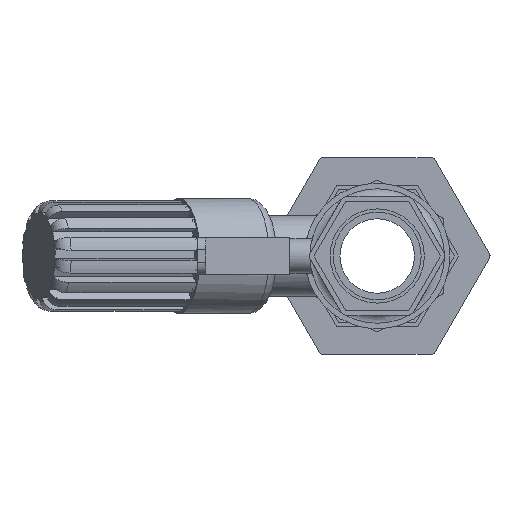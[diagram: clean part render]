
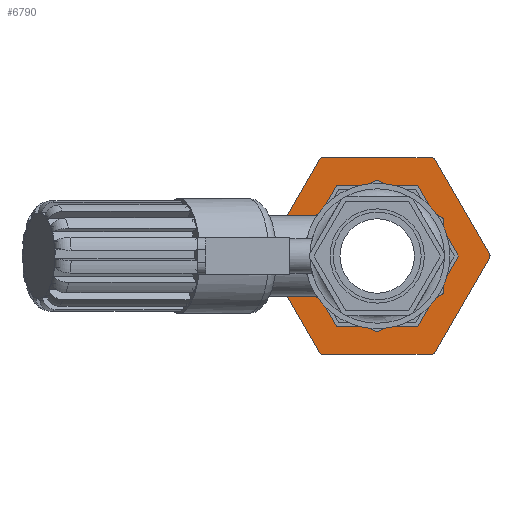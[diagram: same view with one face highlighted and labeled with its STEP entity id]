
A CAD part, left-side view. The second image highlights one B-rep face of the part: STEP entity #6790.
In plain terms, the highlighted planar face has unit normal (-1, 0, 0).
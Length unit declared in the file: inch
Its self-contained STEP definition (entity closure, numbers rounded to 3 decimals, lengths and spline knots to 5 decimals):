
#275=FACE_BOUND('',#1239,.T.);
#476=CIRCLE('',#7490,0.025);
#480=CIRCLE('',#7498,0.025);
#486=CIRCLE('',#7510,0.025);
#492=CIRCLE('',#7523,0.025);
#494=CIRCLE('',#7527,0.025);
#496=CIRCLE('',#7531,0.025);
#498=CIRCLE('',#7535,0.05);
#499=CIRCLE('',#7536,0.05);
#500=CIRCLE('',#7537,0.05);
#501=CIRCLE('',#7538,0.05);
#502=CIRCLE('',#7539,0.05);
#503=CIRCLE('',#7540,0.05);
#853=FACE_OUTER_BOUND('',#1238,.T.);
#1238=EDGE_LOOP('',(#5524,#5525,#5526,#5527,#5528,#5529,#5530,#5531,#5532,
#5533,#5534,#5535));
#1239=EDGE_LOOP('',(#5536,#5537,#5538,#5539,#5540,#5541,#5542,#5543,#5544,
#5545,#5546,#5547));
#1759=LINE('',#11549,#2344);
#1771=LINE('',#11585,#2356);
#1789=LINE('',#11636,#2374);
#1793=LINE('',#11648,#2378);
#1797=LINE('',#11660,#2382);
#1801=LINE('',#11671,#2386);
#1803=LINE('',#11676,#2388);
#1804=LINE('',#11680,#2389);
#1805=LINE('',#11684,#2390);
#1806=LINE('',#11688,#2391);
#1807=LINE('',#11692,#2392);
#1808=LINE('',#11696,#2393);
#2344=VECTOR('',#9047,0.3937);
#2356=VECTOR('',#9083,0.3937);
#2374=VECTOR('',#9135,0.3937);
#2378=VECTOR('',#9147,0.3937);
#2382=VECTOR('',#9159,0.3937);
#2386=VECTOR('',#9171,0.3937);
#2388=VECTOR('',#9175,0.3937);
#2389=VECTOR('',#9178,0.3937);
#2390=VECTOR('',#9181,0.3937);
#2391=VECTOR('',#9184,0.3937);
#2392=VECTOR('',#9187,0.3937);
#2393=VECTOR('',#9190,0.3937);
#2954=VERTEX_POINT('',#11539);
#2955=VERTEX_POINT('',#11540);
#2958=VERTEX_POINT('',#11548);
#2964=VERTEX_POINT('',#11566);
#2970=VERTEX_POINT('',#11584);
#2976=VERTEX_POINT('',#11602);
#2986=VERTEX_POINT('',#11635);
#2988=VERTEX_POINT('',#11641);
#2990=VERTEX_POINT('',#11647);
#2992=VERTEX_POINT('',#11653);
#2994=VERTEX_POINT('',#11659);
#2996=VERTEX_POINT('',#11665);
#2998=VERTEX_POINT('',#11674);
#2999=VERTEX_POINT('',#11675);
#3000=VERTEX_POINT('',#11677);
#3001=VERTEX_POINT('',#11679);
#3002=VERTEX_POINT('',#11681);
#3003=VERTEX_POINT('',#11683);
#3004=VERTEX_POINT('',#11685);
#3005=VERTEX_POINT('',#11687);
#3006=VERTEX_POINT('',#11689);
#3007=VERTEX_POINT('',#11691);
#3008=VERTEX_POINT('',#11693);
#3009=VERTEX_POINT('',#11695);
#3809=EDGE_CURVE('',#2954,#2955,#476,.T.);
#3813=EDGE_CURVE('',#2958,#2954,#1759,.T.);
#3822=EDGE_CURVE('',#2964,#2958,#480,.T.);
#3831=EDGE_CURVE('',#2970,#2964,#1771,.T.);
#3840=EDGE_CURVE('',#2976,#2970,#486,.T.);
#3857=EDGE_CURVE('',#2955,#2986,#1789,.T.);
#3860=EDGE_CURVE('',#2986,#2988,#492,.T.);
#3863=EDGE_CURVE('',#2988,#2990,#1793,.T.);
#3866=EDGE_CURVE('',#2990,#2992,#494,.T.);
#3869=EDGE_CURVE('',#2992,#2994,#1797,.T.);
#3872=EDGE_CURVE('',#2994,#2996,#496,.T.);
#3875=EDGE_CURVE('',#2996,#2976,#1801,.T.);
#3877=EDGE_CURVE('',#2998,#2999,#1803,.T.);
#3878=EDGE_CURVE('',#2999,#3000,#498,.T.);
#3879=EDGE_CURVE('',#3000,#3001,#1804,.T.);
#3880=EDGE_CURVE('',#3001,#3002,#499,.T.);
#3881=EDGE_CURVE('',#3002,#3003,#1805,.T.);
#3882=EDGE_CURVE('',#3003,#3004,#500,.T.);
#3883=EDGE_CURVE('',#3004,#3005,#1806,.T.);
#3884=EDGE_CURVE('',#3005,#3006,#501,.T.);
#3885=EDGE_CURVE('',#3006,#3007,#1807,.T.);
#3886=EDGE_CURVE('',#3007,#3008,#502,.T.);
#3887=EDGE_CURVE('',#3008,#3009,#1808,.T.);
#3888=EDGE_CURVE('',#3009,#2998,#503,.T.);
#5524=ORIENTED_EDGE('',*,*,#3877,.T.);
#5525=ORIENTED_EDGE('',*,*,#3878,.T.);
#5526=ORIENTED_EDGE('',*,*,#3879,.T.);
#5527=ORIENTED_EDGE('',*,*,#3880,.T.);
#5528=ORIENTED_EDGE('',*,*,#3881,.T.);
#5529=ORIENTED_EDGE('',*,*,#3882,.T.);
#5530=ORIENTED_EDGE('',*,*,#3883,.T.);
#5531=ORIENTED_EDGE('',*,*,#3884,.T.);
#5532=ORIENTED_EDGE('',*,*,#3885,.T.);
#5533=ORIENTED_EDGE('',*,*,#3886,.T.);
#5534=ORIENTED_EDGE('',*,*,#3887,.T.);
#5535=ORIENTED_EDGE('',*,*,#3888,.T.);
#5536=ORIENTED_EDGE('',*,*,#3875,.T.);
#5537=ORIENTED_EDGE('',*,*,#3840,.T.);
#5538=ORIENTED_EDGE('',*,*,#3831,.T.);
#5539=ORIENTED_EDGE('',*,*,#3822,.T.);
#5540=ORIENTED_EDGE('',*,*,#3813,.T.);
#5541=ORIENTED_EDGE('',*,*,#3809,.T.);
#5542=ORIENTED_EDGE('',*,*,#3857,.T.);
#5543=ORIENTED_EDGE('',*,*,#3860,.T.);
#5544=ORIENTED_EDGE('',*,*,#3863,.T.);
#5545=ORIENTED_EDGE('',*,*,#3866,.T.);
#5546=ORIENTED_EDGE('',*,*,#3869,.T.);
#5547=ORIENTED_EDGE('',*,*,#3872,.T.);
#6116=PLANE('',#7534);
#6790=ADVANCED_FACE('',(#853,#275),#6116,.F.);
#7490=AXIS2_PLACEMENT_3D('',#11541,#9039,#9040);
#7498=AXIS2_PLACEMENT_3D('',#11567,#9064,#9065);
#7510=AXIS2_PLACEMENT_3D('',#11603,#9100,#9101);
#7523=AXIS2_PLACEMENT_3D('',#11642,#9140,#9141);
#7527=AXIS2_PLACEMENT_3D('',#11654,#9152,#9153);
#7531=AXIS2_PLACEMENT_3D('',#11666,#9164,#9165);
#7534=AXIS2_PLACEMENT_3D('',#11673,#9173,#9174);
#7535=AXIS2_PLACEMENT_3D('',#11678,#9176,#9177);
#7536=AXIS2_PLACEMENT_3D('',#11682,#9179,#9180);
#7537=AXIS2_PLACEMENT_3D('',#11686,#9182,#9183);
#7538=AXIS2_PLACEMENT_3D('',#11690,#9185,#9186);
#7539=AXIS2_PLACEMENT_3D('',#11694,#9188,#9189);
#7540=AXIS2_PLACEMENT_3D('',#11697,#9191,#9192);
#9039=DIRECTION('center_axis',(1.,0.,0.));
#9040=DIRECTION('ref_axis',(0.,-0.5,0.866));
#9047=DIRECTION('',(0.,0.866,0.5));
#9064=DIRECTION('center_axis',(1.,0.,0.));
#9065=DIRECTION('ref_axis',(0.,0.5,0.866));
#9083=DIRECTION('',(0.,0.866,-0.5));
#9100=DIRECTION('center_axis',(1.,0.,0.));
#9101=DIRECTION('ref_axis',(0.,1.,0.));
#9135=DIRECTION('',(0.,0.,1.));
#9140=DIRECTION('center_axis',(1.,0.,0.));
#9141=DIRECTION('ref_axis',(0.,-1.,0.));
#9147=DIRECTION('',(0.,-0.866,0.5));
#9152=DIRECTION('center_axis',(1.,0.,0.));
#9153=DIRECTION('ref_axis',(0.,-0.5,-0.866));
#9159=DIRECTION('',(0.,-0.866,-0.5));
#9164=DIRECTION('center_axis',(1.,0.,0.));
#9165=DIRECTION('ref_axis',(0.,0.5,-0.866));
#9171=DIRECTION('',(0.,0.,-1.));
#9173=DIRECTION('center_axis',(1.,0.,0.));
#9174=DIRECTION('ref_axis',(0.,0.,-1.));
#9175=DIRECTION('',(0.,-0.5,-0.866));
#9176=DIRECTION('center_axis',(-1.,0.,0.));
#9177=DIRECTION('ref_axis',(0.,0.,1.));
#9178=DIRECTION('',(0.,-1.,0.));
#9179=DIRECTION('center_axis',(-1.,0.,0.));
#9180=DIRECTION('ref_axis',(0.,0.866,0.5));
#9181=DIRECTION('',(0.,-0.5,0.866));
#9182=DIRECTION('center_axis',(-1.,0.,0.));
#9183=DIRECTION('ref_axis',(0.,0.866,-0.5));
#9184=DIRECTION('',(0.,0.5,0.866));
#9185=DIRECTION('center_axis',(-1.,0.,0.));
#9186=DIRECTION('ref_axis',(0.,0.,-1.));
#9187=DIRECTION('',(0.,1.,0.));
#9188=DIRECTION('center_axis',(-1.,0.,0.));
#9189=DIRECTION('ref_axis',(0.,-0.866,-0.5));
#9190=DIRECTION('',(0.,0.5,-0.866));
#9191=DIRECTION('center_axis',(-1.,0.,0.));
#9192=DIRECTION('ref_axis',(0.,-0.866,0.5));
#11539=CARTESIAN_POINT('',(-0.315,0.645,-0.38682));
#11540=CARTESIAN_POINT('',(-0.315,0.6575,-0.36517));
#11541=CARTESIAN_POINT('Origin',(-0.315,0.6325,-0.36517));
#11548=CARTESIAN_POINT('',(-0.315,0.0125,-0.752));
#11549=CARTESIAN_POINT('',(-0.315,0.48688,-0.47812));
#11566=CARTESIAN_POINT('',(-0.315,-0.0125,-0.752));
#11567=CARTESIAN_POINT('Origin',(-0.315,0.,-0.73035));
#11584=CARTESIAN_POINT('',(-0.315,-0.645,-0.38682));
#11585=CARTESIAN_POINT('',(-0.315,-0.17063,-0.66071));
#11602=CARTESIAN_POINT('',(-0.315,-0.6575,-0.36517));
#11603=CARTESIAN_POINT('Origin',(-0.315,-0.6325,-0.36517));
#11635=CARTESIAN_POINT('',(-0.315,0.6575,0.36517));
#11636=CARTESIAN_POINT('',(-0.315,0.6575,0.18259));
#11641=CARTESIAN_POINT('',(-0.315,0.645,0.38682));
#11642=CARTESIAN_POINT('Origin',(-0.315,0.6325,0.36517));
#11647=CARTESIAN_POINT('',(-0.315,0.0125,0.752));
#11648=CARTESIAN_POINT('',(-0.315,0.17063,0.66071));
#11653=CARTESIAN_POINT('',(-0.315,-0.0125,0.752));
#11654=CARTESIAN_POINT('Origin',(-0.315,0.,0.73035));
#11659=CARTESIAN_POINT('',(-0.315,-0.645,0.38682));
#11660=CARTESIAN_POINT('',(-0.315,-0.48687,0.47812));
#11665=CARTESIAN_POINT('',(-0.315,-0.6575,0.36517));
#11666=CARTESIAN_POINT('Origin',(-0.315,-0.6325,0.36517));
#11671=CARTESIAN_POINT('',(-0.315,-0.6575,-0.18259));
#11673=CARTESIAN_POINT('Origin',(-0.315,0.,0.));
#11674=CARTESIAN_POINT('',(-0.315,1.11717,-0.025));
#11675=CARTESIAN_POINT('',(-0.315,0.58024,-0.955));
#11676=CARTESIAN_POINT('',(-0.315,1.11717,-0.025));
#11677=CARTESIAN_POINT('',(-0.315,0.53694,-0.98));
#11678=CARTESIAN_POINT('Origin',(-0.315,0.53694,-0.93));
#11679=CARTESIAN_POINT('',(-0.315,-0.53694,-0.98));
#11680=CARTESIAN_POINT('',(-0.315,0.53694,-0.98));
#11681=CARTESIAN_POINT('',(-0.315,-0.58024,-0.955));
#11682=CARTESIAN_POINT('Origin',(-0.315,-0.53694,-0.93));
#11683=CARTESIAN_POINT('',(-0.315,-1.11717,-0.025));
#11684=CARTESIAN_POINT('',(-0.315,-0.58024,-0.955));
#11685=CARTESIAN_POINT('',(-0.315,-1.11717,0.025));
#11686=CARTESIAN_POINT('Origin',(-0.315,-1.07387,0.));
#11687=CARTESIAN_POINT('',(-0.315,-0.58024,0.955));
#11688=CARTESIAN_POINT('',(-0.315,-1.11717,0.025));
#11689=CARTESIAN_POINT('',(-0.315,-0.53694,0.98));
#11690=CARTESIAN_POINT('Origin',(-0.315,-0.53694,0.93));
#11691=CARTESIAN_POINT('',(-0.315,0.53694,0.98));
#11692=CARTESIAN_POINT('',(-0.315,-0.53694,0.98));
#11693=CARTESIAN_POINT('',(-0.315,0.58024,0.955));
#11694=CARTESIAN_POINT('Origin',(-0.315,0.53694,0.93));
#11695=CARTESIAN_POINT('',(-0.315,1.11717,0.025));
#11696=CARTESIAN_POINT('',(-0.315,0.58024,0.955));
#11697=CARTESIAN_POINT('Origin',(-0.315,1.07387,0.));
